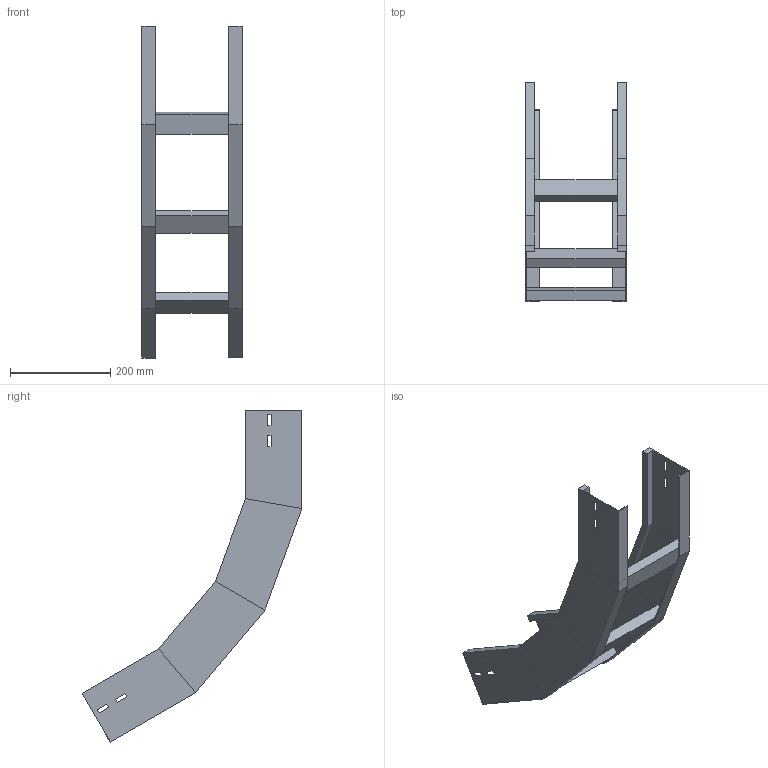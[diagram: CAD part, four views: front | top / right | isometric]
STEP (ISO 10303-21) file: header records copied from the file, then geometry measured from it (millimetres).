
FILE_DESCRIPTION (( 'STEP AP214' ), '1' );
FILE_NAME ('B2X40B5J200XX.step', '2025-03-20T10:15:59', ( '' ), ( '' ), 'SwSTEP 2.0', 'SolidWorks 2023', '' );
FILE_SCHEMA (( 'AUTOMOTIVE_DESIGN' ));
Length unit declared in the file: millimetre
Products named in the file (3): B2X40B5J200XX; TRAVERSINO_200; LONGH.SALITA_60°_H112.5_R500
Assembly tree (5 placements, depth 2):
  B2X40B5J200XX
    LONGH.SALITA_60°_H112.5_R500  x2
    TRAVERSINO_200  x3
Bounding box: 200 x 438.74 x 662.49 mm (x, y, z)
Volume: 1173466.9 mm3; surface area: 554419.8 mm2
Topology: 5 solids, 5 shells, 118 faces, 276 edges, 168 vertices
Faces by surface type: plane 118
Entity records: 1672 total; most frequent: CARTESIAN_POINT 276, ORIENTED_EDGE 264, DIRECTION 260, EDGE_CURVE 132, VECTOR 132, LINE 132, VERTEX_POINT 80, EDGE_LOOP 64
